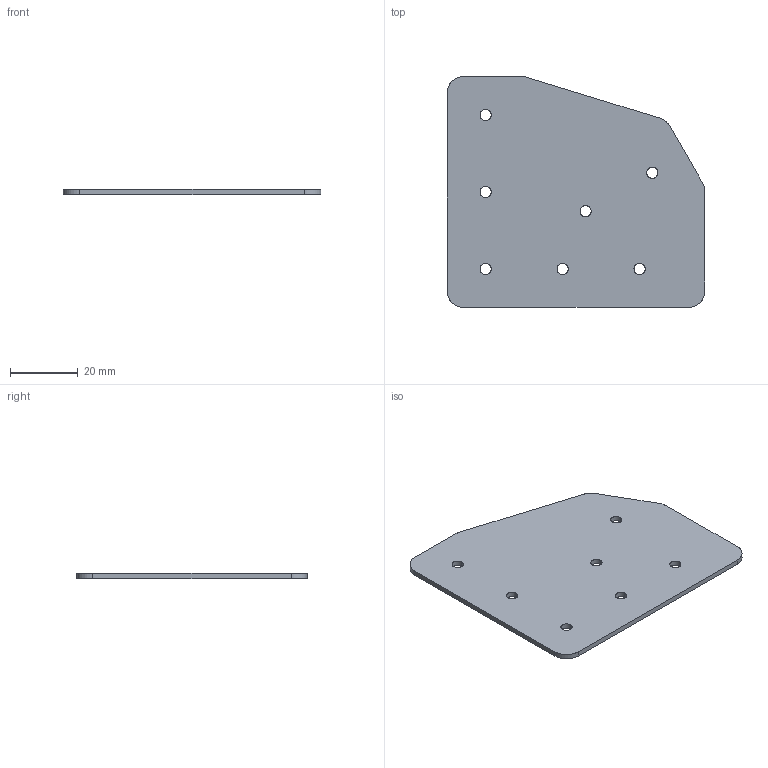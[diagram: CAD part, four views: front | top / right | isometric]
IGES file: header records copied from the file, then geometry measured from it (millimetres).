
Start section: SolidWorks IGES file using analytic representation for surfaces
Global section: file name: C:\Working\Gusset Convert\DRP-002-0015-03.igs; native system: SolidWorks 2010; preprocessor: SolidWorks 2010; author: mbush2; date: 100624.090639; units: inch
Bounding box: 76.11 x 68.2 x 1.52 mm (x, y, z)
Surface area: 9683.2 mm2 (no closed solid volume)
Topology: 0 solids, 0 shells, 28 faces, 632 edges, 632 vertices
Faces by surface type: revolution 20, bspline 8
